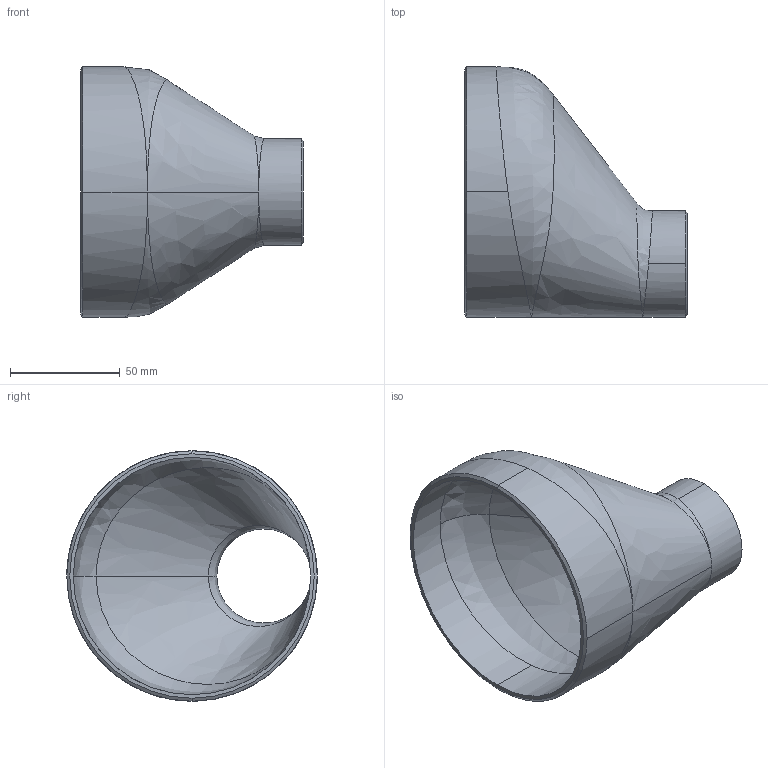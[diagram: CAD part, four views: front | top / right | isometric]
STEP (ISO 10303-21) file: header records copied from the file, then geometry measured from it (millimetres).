
FILE_DESCRIPTION (( 'STEP AP214' ), '1' );
FILE_NAME ('Eccentricity-reducer(1)_Sch10S-100Ax40A.STEP', '2022-06-24T06:24:42', ( 'ASIS User' ), ( 'ASIS User' ), 'SwSTEP 2.0', 'SolidWorks 2022', '' );
FILE_SCHEMA (( 'AUTOMOTIVE_DESIGN' ));
Length unit declared in the file: millimetre
Products named in the file (1): Eccentricity-reducer(1)_Sch10S-100Ax40A
Bounding box: 101.6 x 114.3 x 114.3 mm (x, y, z)
Volume: 77098.5 mm3; surface area: 59107.4 mm2
Topology: 1 solids, 1 shells, 31 faces, 84 edges, 51 vertices
Faces by surface type: bspline 18, cylinder 7, cone 4, plane 2
Entity records: 5262 total; most frequent: CARTESIAN_POINT 4605, ORIENTED_EDGE 160, DIRECTION 81, EDGE_CURVE 80, VERTEX_POINT 51, B_SPLINE_CURVE_WITH_KNOTS 47, AXIS2_PLACEMENT_3D 34, EDGE_LOOP 33
